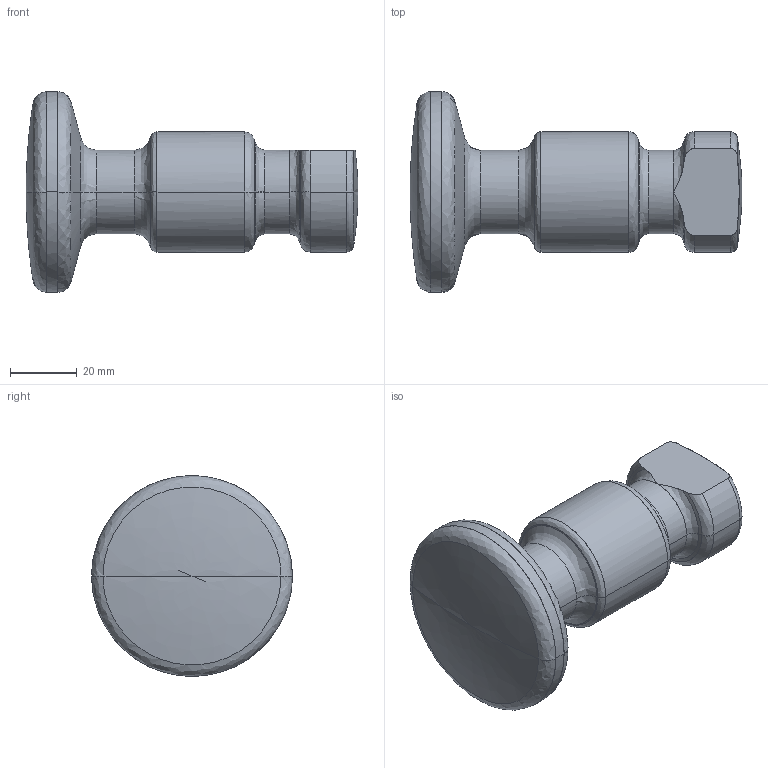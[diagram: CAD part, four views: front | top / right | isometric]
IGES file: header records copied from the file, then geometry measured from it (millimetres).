
Global section: file name: E:\UnigraphicsGraphicData\MISUMI_PRESS-PARTS\IGES\3d_chfl25_03520_r00.igs; native system: NX V5.0; preprocessor: UGS NX IGES V5.0; author: MISUMI; date: 20110105.160216; units: millimetre
Bounding box: 99.2 x 60 x 59.96 mm (x, y, z)
Surface area: 16221.1 mm2 (no closed solid volume)
Topology: 0 solids, 0 shells, 48 faces, 214 edges, 210 vertices
Faces by surface type: bspline 48
